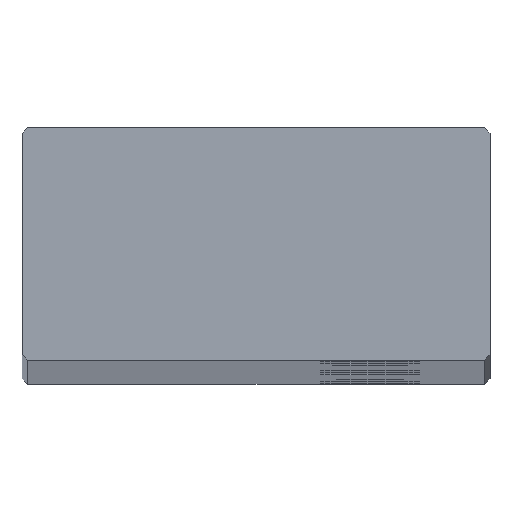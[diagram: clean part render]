
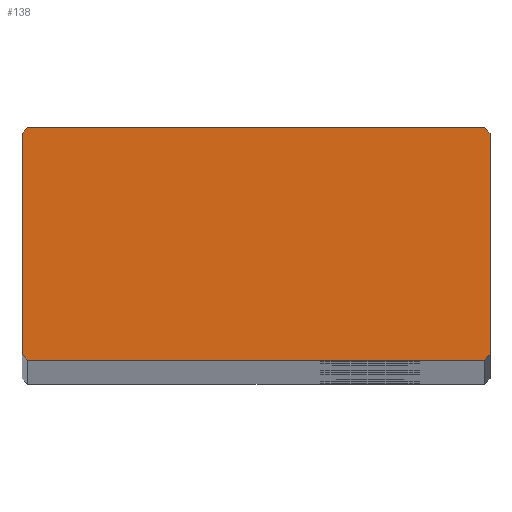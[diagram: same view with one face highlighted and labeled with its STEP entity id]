
A CAD part, top view. The second image highlights one B-rep face of the part: STEP entity #138.
In plain terms, the highlighted planar face has unit normal (0, 0, 1).
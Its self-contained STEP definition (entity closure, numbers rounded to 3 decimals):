
#138=ADVANCED_FACE('',(#300),#301,.T.);
#300=FACE_OUTER_BOUND('',#463,.T.);
#301=PLANE('',#464);
#463=EDGE_LOOP('',(#952,#953,#954,#955,#956,#957,#958,#959));
#464=AXIS2_PLACEMENT_3D('',#960,#961,#962);
#952=ORIENTED_EDGE('',*,*,#1106,.F.);
#953=ORIENTED_EDGE('',*,*,#1128,.F.);
#954=ORIENTED_EDGE('',*,*,#1125,.F.);
#955=ORIENTED_EDGE('',*,*,#1122,.F.);
#956=ORIENTED_EDGE('',*,*,#1119,.F.);
#957=ORIENTED_EDGE('',*,*,#1116,.F.);
#958=ORIENTED_EDGE('',*,*,#1113,.F.);
#959=ORIENTED_EDGE('',*,*,#1110,.F.);
#960=CARTESIAN_POINT('',(0.,16.5,1976.0));
#961=DIRECTION('',(0.0,0.0,1.0));
#962=DIRECTION('',(1.0,0.0,0.0));
#1106=EDGE_CURVE('',#1350,#1351,#1352,.T.);
#1110=EDGE_CURVE('',#1351,#1358,#1359,.T.);
#1113=EDGE_CURVE('',#1358,#1363,#1364,.T.);
#1116=EDGE_CURVE('',#1363,#1368,#1369,.T.);
#1119=EDGE_CURVE('',#1368,#1373,#1374,.T.);
#1122=EDGE_CURVE('',#1373,#1378,#1379,.T.);
#1125=EDGE_CURVE('',#1378,#1383,#1384,.T.);
#1128=EDGE_CURVE('',#1383,#1350,#1388,.T.);
#1350=VERTEX_POINT('',#1654);
#1351=VERTEX_POINT('',#1655);
#1352=LINE('',#1656,#1657);
#1358=VERTEX_POINT('',#1666);
#1359=LINE('',#1667,#1668);
#1363=VERTEX_POINT('',#1674);
#1364=LINE('',#1675,#1676);
#1368=VERTEX_POINT('',#1682);
#1369=LINE('',#1683,#1684);
#1373=VERTEX_POINT('',#1690);
#1374=LINE('',#1691,#1692);
#1378=VERTEX_POINT('',#1698);
#1379=LINE('',#1699,#1700);
#1383=VERTEX_POINT('',#1706);
#1384=LINE('',#1707,#1708);
#1388=LINE('',#1714,#1715);
#1654=CARTESIAN_POINT('',(-32.4,0.,1976.0));
#1655=CARTESIAN_POINT('',(-33.2,0.8,1976.0));
#1656=CARTESIAN_POINT('',(-32.4,0.,1976.0));
#1657=VECTOR('',#2026,1.0);
#1666=CARTESIAN_POINT('',(-33.2,32.2,1976.0));
#1667=CARTESIAN_POINT('',(-33.2,0.8,1976.0));
#1668=VECTOR('',#2030,1.0);
#1674=CARTESIAN_POINT('',(-32.4,33.0,1976.0));
#1675=CARTESIAN_POINT('',(-33.2,32.2,1976.0));
#1676=VECTOR('',#2033,1.0);
#1682=CARTESIAN_POINT('',(32.4,33.0,1976.0));
#1683=CARTESIAN_POINT('',(-32.4,33.0,1976.0));
#1684=VECTOR('',#2036,1.0);
#1690=CARTESIAN_POINT('',(33.2,32.2,1976.0));
#1691=CARTESIAN_POINT('',(32.4,33.0,1976.0));
#1692=VECTOR('',#2039,1.0);
#1698=CARTESIAN_POINT('',(33.2,0.8,1976.0));
#1699=CARTESIAN_POINT('',(33.2,0.8,1976.0));
#1700=VECTOR('',#2042,1.0);
#1706=CARTESIAN_POINT('',(32.4,0.,1976.0));
#1707=CARTESIAN_POINT('',(32.4,0.,1976.0));
#1708=VECTOR('',#2045,1.0);
#1714=CARTESIAN_POINT('',(-32.4,0.,1976.0));
#1715=VECTOR('',#2048,1.0);
#2026=DIRECTION('',(-0.707,0.707,0.0));
#2030=DIRECTION('',(0.0,1.0,0.0));
#2033=DIRECTION('',(0.707,0.707,0.0));
#2036=DIRECTION('',(1.0,0.0,0.0));
#2039=DIRECTION('',(0.707,-0.707,0.0));
#2042=DIRECTION('',(-0.0,-1.0,-0.0));
#2045=DIRECTION('',(-0.707,-0.707,-0.0));
#2048=DIRECTION('',(-1.0,-0.0,-0.0));
